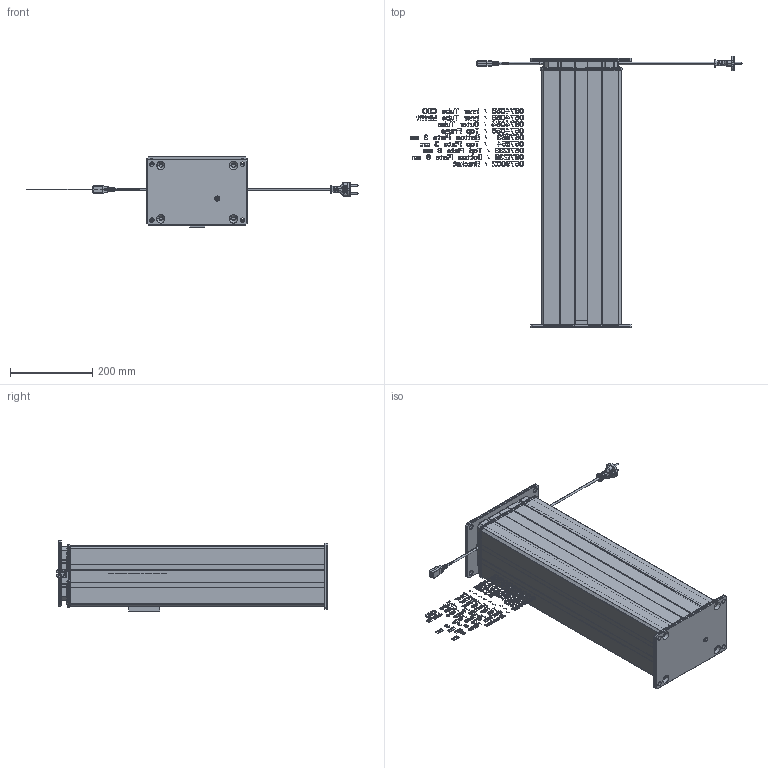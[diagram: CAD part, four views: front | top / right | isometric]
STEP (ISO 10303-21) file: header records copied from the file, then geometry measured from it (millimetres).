
FILE_DESCRIPTION((''),'2;1');
FILE_NAME('0574057_ASM','2026-07-08T10:08:36',('jak'),(''),'CREO PARAMETRIC BY PTC INC, 2022024','CREO PARAMETRIC BY PTC INC, 2022024','');
FILE_SCHEMA(('AUTOMOTIVE_DESIGN { 1 0 10303 214 1 1 1 1 }'));
Products named in the file (23): 0574055; 0574058; 0574054; 0574056; 0571153; 0571154; 0571233; 0571235; 0571016; 0571017; DIN7991-M8X12-STEEL-8_8; 0579002-BRACKET-ASS_ASM; 0574055-TEXT; 0574058-TEXT; 0574054-TEXT; 0574056-TEXT; 0571153-TEXT; 0571154-TEXT; 0571233-TEXT; 0571235-TEXT; 0579002-TEXT; 0574057-CONVERSION_ASM; 0574057_ASM
Assembly tree (23 placements, depth 3):
  0574057_ASM
    0574055
    0574058
    0574054
    0574056
    0571153
    0571154
    0571233
    0571235
    0579002-BRACKET-ASS_ASM
      0571016
      0571017
      DIN7991-M8X12-STEEL-8_8  x2
    0574057-CONVERSION_ASM
      0574055-TEXT
      0574058-TEXT
      0574054-TEXT
      0574056-TEXT
      0571153-TEXT
      0571154-TEXT
      0571233-TEXT
      0571235-TEXT
      0579002-TEXT
Bounding box: 806.15 x 659.7 x 172.25 mm (x, y, z)
Volume: 46312608.8 mm3; surface area: 1897095.6 mm2
Topology: 189 solids, 189 shells, 7674 faces, 21283 edges, 14007 vertices
Faces by surface type: plane 6474, cylinder 789, cone 154, bspline 146, torus 95, sphere 16
Entity records: 258138 total; most frequent: CARTESIAN_POINT 54638, ORIENTED_EDGE 42458, DIRECTION 36961, EDGE_CURVE 21229, VECTOR 18779, LINE 18779, VERTEX_POINT 13975, AXIS2_PLACEMENT_3D 9091
